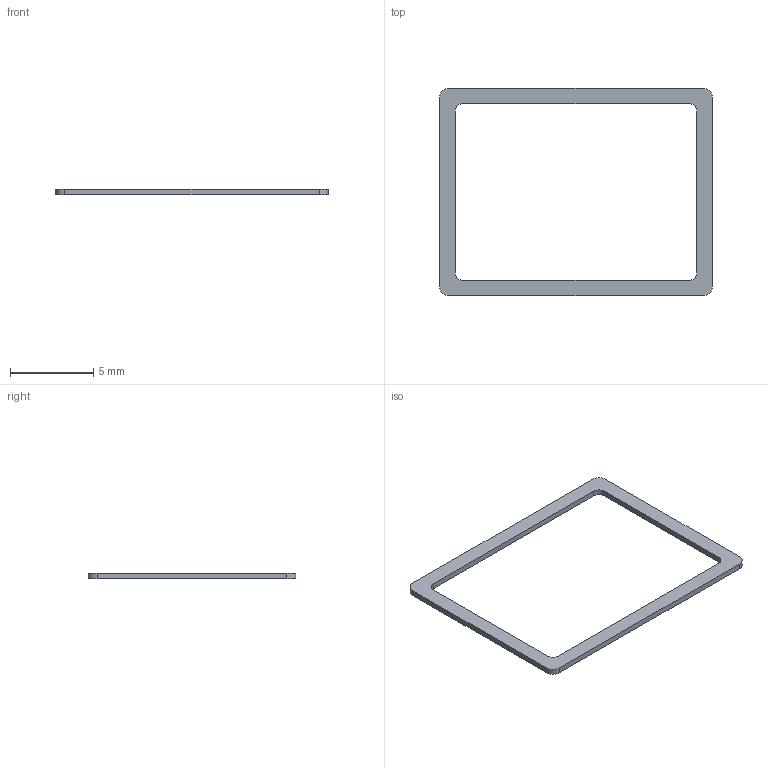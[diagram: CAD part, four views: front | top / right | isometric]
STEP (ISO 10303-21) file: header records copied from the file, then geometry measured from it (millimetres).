
FILE_DESCRIPTION(('Open CASCADE Model'),'2;1');
FILE_NAME('C27_R2_Microphone_Rear_Preload_FREE_STATE', '2026-09-09T17:52:57',('Author'),('Open CASCADE'), 'Open CASCADE STEP processor 7.9','build123d','Unknown');
FILE_SCHEMA(('AUTOMOTIVE_DESIGN { 1 0 10303 214 1 1 1 1 }'));
Length unit declared in the file: millimetre
Products named in the file (1): C27_R2_Microphone_Rear_Preload_FREE_STATE
Bounding box: 16.35 x 12.45 x 0.35 mm (x, y, z)
Volume: 17.4 mm3; surface area: 136.7 mm2
Topology: 1 solids, 1 shells, 18 faces, 48 edges, 32 vertices
Faces by surface type: plane 10, cylinder 8
Entity records: 1225 total; most frequent: CARTESIAN_POINT 259, DIRECTION 174, ORIENTED_EDGE 96, LINE 96, VECTOR 96, PCURVE 96, DEFINITIONAL_REPRESENTATION 96, EDGE_CURVE 48
